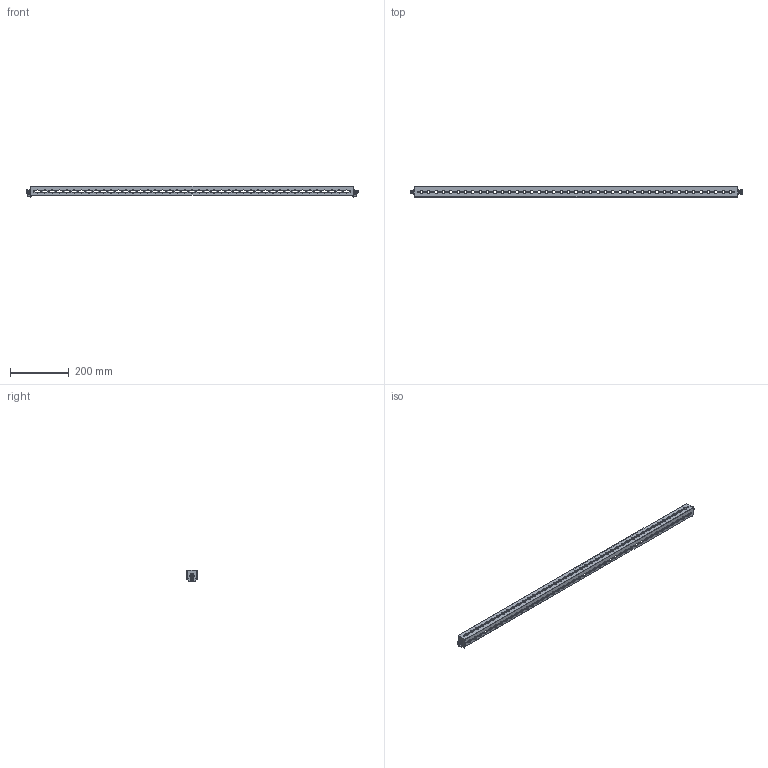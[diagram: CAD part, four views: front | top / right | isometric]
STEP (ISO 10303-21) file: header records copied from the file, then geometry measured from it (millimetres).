
FILE_DESCRIPTION(('Open CASCADE Model'),'2;1');
FILE_NAME('Open CASCADE Shape Model','2025-02-21T11:48:09',('Author'),( 'Open CASCADE'),'Open CASCADE STEP processor 7.8','Open CASCADE 7.8' ,'Unknown');
FILE_SCHEMA(('AUTOMOTIVE_DESIGN { 1 0 10303 214 1 1 1 1 }'));
Length unit declared in the file: millimetre
Products named in the file (5): Compound1; Solid1; Solid2; Solid3; Solid4
Assembly tree (7 placements, depth 2):
  Compound1
    Solid1
    Solid2  x2
    Solid3  x2
    Solid4  x2
Bounding box: 1127.6 x 34 x 38.5 mm (x, y, z)
Volume: 132567.4 mm3; surface area: 191463.9 mm2
Topology: 9 solids, 9 shells, 2638 faces, 7754 edges, 5132 vertices
Faces by surface type: cylinder 1508, plane 990, bspline 80, torus 32, cone 24, sphere 4
Full cylindrical faces by diameter (mm): 4.2 x132, 5 x4, 5.5 x2, 6 x2, 6.5 x4, 8.3 x2, 9.5 x2, 12 x2
Entity records: 86377 total; most frequent: CARTESIAN_POINT 17466, DIRECTION 14810, ORIENTED_EDGE 14502, EDGE_CURVE 7251, AXIS2_PLACEMENT_3D 5447, VERTEX_POINT 4824, LINE 3916, VECTOR 3916
